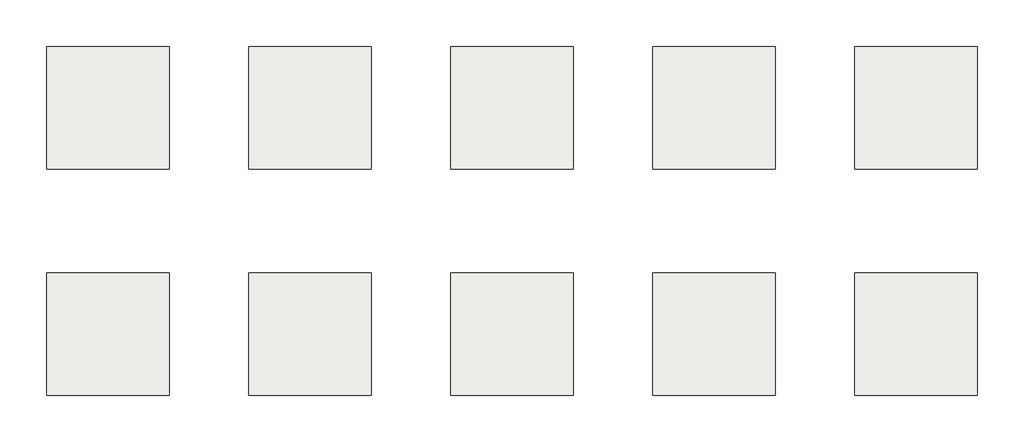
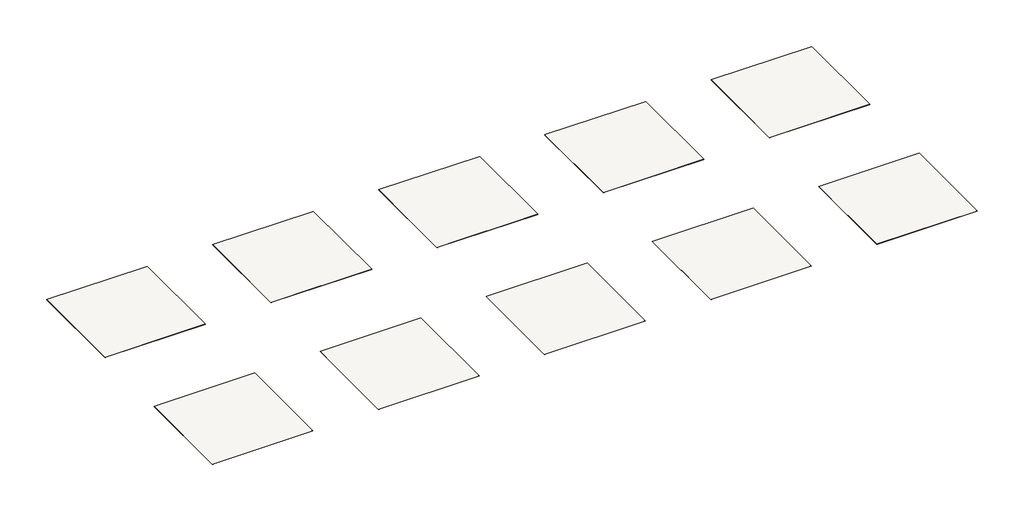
# One storey: 10 slabs.
"""IFC4 building model written with IfcOpenShell, lengths in millimetres."""

from ifc_helpers import new_model, si_unit, frame, origin, place, context, project, spatial, polyline, outline, extrude, element, save

model = new_model("IFC4")

# Units and contexts
model_context = context("Model", 3, world=origin())
ifc_project = project(units=[si_unit("LENGTHUNIT", "METRE", prefix="MILLI")], contexts=[model_context])

# Site, building, storey
site = spatial("IfcSite", under=ifc_project)
building = spatial("IfcBuilding", under=site)
storey = spatial("IfcBuildingStorey", under=building, Name="Tarkett Brasil", Elevation=0.0)

# Slabs
placement = place(None, origin())
element("IfcSlab", 1, ObjectType="Tarkett Brasil - Vinyl - Essence Tech - Alicante 24172722", at=placement, inside=storey, context=model_context, shape_type="SweptSolid", body=[
    extrude(outline(polyline([(-15702.4114832, 2877.5655387), (-15702.4114832, 877.5655387), (-17702.4114832, 877.5655387), (-17702.4114832, 2877.5655387), (-15702.4114832, 2877.5655387)])), frame((0.0, 0.0, -4.5), z_axis=(0.0, 0.0, 1.0), x_axis=(1.0, 0.0, 0.0)), (0.0, 0.0, 1.0), 4.5),
])
element("IfcSlab", 2, ObjectType="Tarkett Brasil - Vinyl - Essence Tech - Almeria 24172618", at=placement, inside=storey, context=model_context, shape_type="SweptSolid", body=[
    extrude(outline(polyline([(-12402.4114832, 2877.5655387), (-12402.4114832, 877.5655387), (-14402.4114832, 877.5655387), (-14402.4114832, 2877.5655387), (-12402.4114832, 2877.5655387)])), frame((0.0, 0.0, -4.5), z_axis=(0.0, 0.0, 1.0), x_axis=(1.0, 0.0, 0.0)), (0.0, 0.0, 1.0), 4.5),
])
element("IfcSlab", 3, ObjectType="Tarkett Brasil - Vinyl - Essence Tech - Asturias 24172657", at=placement, inside=storey, context=model_context, shape_type="SweptSolid", body=[
    extrude(outline(polyline([(-9102.4114832, 2877.5655387), (-9102.4114832, 877.5655387), (-11102.4114832, 877.5655387), (-11102.4114832, 2877.5655387), (-9102.4114832, 2877.5655387)])), frame((0.0, 0.0, -4.5), z_axis=(0.0, 0.0, 1.0), x_axis=(1.0, 0.0, 0.0)), (0.0, 0.0, 1.0), 4.5),
])
element("IfcSlab", 4, ObjectType="Tarkett Brasil - Vinyl - Essence Tech - Benidorm 24172723", at=placement, inside=storey, context=model_context, shape_type="SweptSolid", body=[
    extrude(outline(polyline([(-5802.4114832, 2877.5655387), (-5802.4114832, 877.5655387), (-7802.4114832, 877.5655387), (-7802.4114832, 2877.5655387), (-5802.4114832, 2877.5655387)])), frame((0.0, 0.0, -4.5), z_axis=(0.0, 0.0, 1.0), x_axis=(1.0, 0.0, 0.0)), (0.0, 0.0, 1.0), 4.5),
])
element("IfcSlab", 5, ObjectType="Tarkett Brasil - Vinyl - Essence Tech - Cadiz 24172726", at=placement, inside=storey, context=model_context, shape_type="SweptSolid", body=[
    extrude(outline(polyline([(-2502.4114832, 2877.5655387), (-2502.4114832, 877.5655387), (-4502.4114832, 877.5655387), (-4502.4114832, 2877.5655387), (-2502.4114832, 2877.5655387)])), frame((0.0, 0.0, -4.5), z_axis=(0.0, 0.0, 1.0), x_axis=(1.0, 0.0, 0.0)), (0.0, 0.0, 1.0), 4.5),
])
element("IfcSlab", 6, ObjectType="Tarkett Brasil - Vinyl - Essence Tech - Ibiza 24172351", at=placement, inside=storey, context=model_context, shape_type="SweptSolid", body=[
    extrude(outline(polyline([(-15702.4114832, -822.4344613), (-15702.4114832, -2822.4344613), (-17702.4114832, -2822.4344613), (-17702.4114832, -822.4344613), (-15702.4114832, -822.4344613)])), frame((0.0, 0.0, -4.5), z_axis=(0.0, 0.0, 1.0), x_axis=(1.0, 0.0, 0.0)), (0.0, 0.0, 1.0), 4.5),
])
element("IfcSlab", 7, ObjectType="Tarkett Brasil - Vinyl - Essence Tech - Maiorca 24172701", at=placement, inside=storey, context=model_context, shape_type="SweptSolid", body=[
    extrude(outline(polyline([(-12402.4114832, -822.4344613), (-12402.4114832, -2822.4344613), (-14402.4114832, -2822.4344613), (-14402.4114832, -822.4344613), (-12402.4114832, -822.4344613)])), frame((0.0, 0.0, -4.5), z_axis=(0.0, 0.0, 1.0), x_axis=(1.0, 0.0, 0.0)), (0.0, 0.0, 1.0), 4.5),
])
element("IfcSlab", 8, ObjectType="Tarkett Brasil - Vinyl - Essence Tech - Malaga 24172724", at=placement, inside=storey, context=model_context, shape_type="SweptSolid", body=[
    extrude(outline(polyline([(-9102.4114832, -822.4344613), (-9102.4114832, -2822.4344613), (-11102.4114832, -2822.4344613), (-11102.4114832, -822.4344613), (-9102.4114832, -822.4344613)])), frame((0.0, 0.0, -4.5), z_axis=(0.0, 0.0, 1.0), x_axis=(1.0, 0.0, 0.0)), (0.0, 0.0, 1.0), 4.5),
])
element("IfcSlab", 9, ObjectType="Tarkett Brasil - Vinyl - Essence Tech - Tenerife 24172291", at=placement, inside=storey, context=model_context, shape_type="SweptSolid", body=[
    extrude(outline(polyline([(-5802.4114832, -822.4344613), (-5802.4114832, -2822.4344613), (-7802.4114832, -2822.4344613), (-7802.4114832, -822.4344613), (-5802.4114832, -822.4344613)])), frame((0.0, 0.0, -4.5), z_axis=(0.0, 0.0, 1.0), x_axis=(1.0, 0.0, 0.0)), (0.0, 0.0, 1.0), 4.5),
])
element("IfcSlab", 10, ObjectType="Tarkett Brasil - Vinyl - Essence Tech - Valencia 24172104", at=placement, inside=storey, context=model_context, shape_type="SweptSolid", body=[
    extrude(outline(polyline([(-2502.4114832, -822.4344613), (-2502.4114832, -2822.4344613), (-4502.4114832, -2822.4344613), (-4502.4114832, -822.4344613), (-2502.4114832, -822.4344613)])), frame((0.0, 0.0, -4.5), z_axis=(0.0, 0.0, 1.0), x_axis=(1.0, 0.0, 0.0)), (0.0, 0.0, 1.0), 4.5),
])

save(model, "model.ifc")
